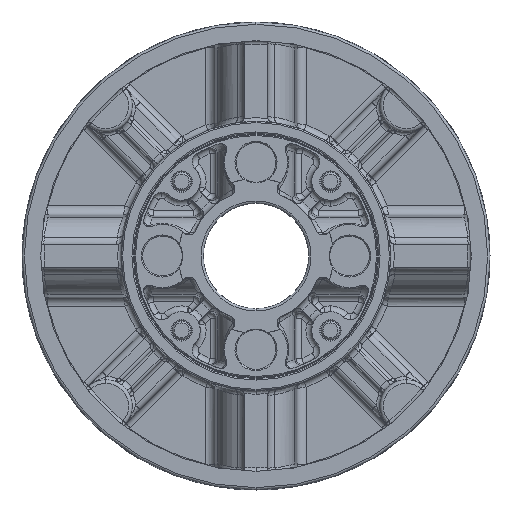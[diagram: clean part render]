
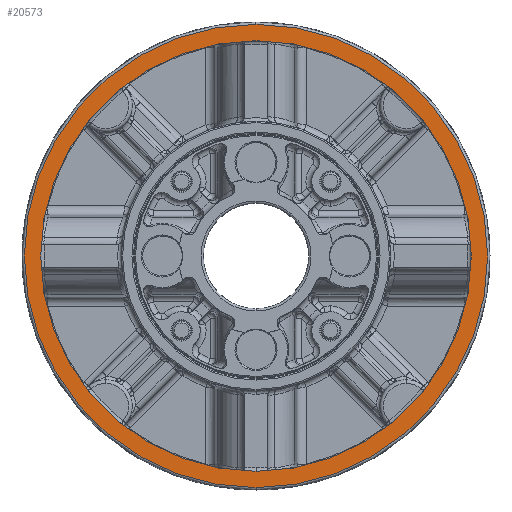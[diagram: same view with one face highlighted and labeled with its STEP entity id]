
A CAD part, left-side view. The second image highlights one B-rep face of the part: STEP entity #20573.
In plain terms, the highlighted planar face has unit normal (-1, 0, 0).
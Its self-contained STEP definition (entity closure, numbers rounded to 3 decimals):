
#924 = EDGE_CURVE ( 'NONE', #15678, #44358, #6846, .T. ) ;
#1213 = CARTESIAN_POINT ( 'NONE',  ( -100., 198., 0. ) ) ;
#4038 = CARTESIAN_POINT ( 'NONE',  ( -100., 0., 0. ) ) ;
#6023 = FACE_OUTER_BOUND ( 'NONE', #53920, .T. ) ;
#6475 = CARTESIAN_POINT ( 'NONE',  ( -100., 0., 0. ) ) ;
#6580 = DIRECTION ( 'NONE',  ( 1., 0., 0. ) ) ;
#6846 = CIRCLE ( 'NONE', #65670, 184. ) ;
#9477 = CARTESIAN_POINT ( 'NONE',  ( -100., 0., 198. ) ) ;
#10810 = DIRECTION ( 'NONE',  ( 0., 0., 1. ) ) ;
#11257 = AXIS2_PLACEMENT_3D ( 'NONE', #4038, #61016, #35822 ) ;
#11604 = ORIENTED_EDGE ( 'NONE', *, *, #57545, .F. ) ;
#15511 = AXIS2_PLACEMENT_3D ( 'NONE', #32570, #6580, #27428 ) ;
#15678 = VERTEX_POINT ( 'NONE', #35403 ) ;
#17598 = EDGE_LOOP ( 'NONE', ( #36460, #32064 ) ) ;
#17777 = CIRCLE ( 'NONE', #11257, 184. ) ;
#19361 = CARTESIAN_POINT ( 'NONE',  ( -100., 0., 0. ) ) ;
#20573 = ADVANCED_FACE ( 'NONE', ( #42537, #6023 ), #47975, .T. ) ;
#22058 = DIRECTION ( 'NONE',  ( 0., 0., -1. ) ) ;
#25737 = VERTEX_POINT ( 'NONE', #9477 ) ;
#26526 = DIRECTION ( 'NONE',  ( -1., 0., 0. ) ) ;
#27324 = DIRECTION ( 'NONE',  ( 1., 0., 0. ) ) ;
#27428 = DIRECTION ( 'NONE',  ( 0., 0., -1. ) ) ;
#30945 = CARTESIAN_POINT ( 'NONE',  ( -100., 0., -198. ) ) ;
#32064 = ORIENTED_EDGE ( 'NONE', *, *, #924, .T. ) ;
#32570 = CARTESIAN_POINT ( 'NONE',  ( -100., 0., 0. ) ) ;
#32832 = ORIENTED_EDGE ( 'NONE', *, *, #50570, .F. ) ;
#33133 = AXIS2_PLACEMENT_3D ( 'NONE', #1213, #26526, #10810 ) ;
#35403 = CARTESIAN_POINT ( 'NONE',  ( -100., 0., 184. ) ) ;
#35822 = DIRECTION ( 'NONE',  ( 0., 0., -1. ) ) ;
#36460 = ORIENTED_EDGE ( 'NONE', *, *, #58420, .T. ) ;
#38342 = CIRCLE ( 'NONE', #15511, 198. ) ;
#42537 = FACE_BOUND ( 'NONE', #17598, .T. ) ;
#44358 = VERTEX_POINT ( 'NONE', #64267 ) ;
#45965 = DIRECTION ( 'NONE',  ( 1., 0., 0. ) ) ;
#47975 = PLANE ( 'NONE',  #33133 ) ;
#50570 = EDGE_CURVE ( 'NONE', #25737, #53758, #38342, .T. ) ;
#50810 = DIRECTION ( 'NONE',  ( 0., 0., -1. ) ) ;
#53758 = VERTEX_POINT ( 'NONE', #30945 ) ;
#53920 = EDGE_LOOP ( 'NONE', ( #11604, #32832 ) ) ;
#55221 = AXIS2_PLACEMENT_3D ( 'NONE', #6475, #27324, #50810 ) ;
#57423 = CIRCLE ( 'NONE', #55221, 198. ) ;
#57545 = EDGE_CURVE ( 'NONE', #53758, #25737, #57423, .T. ) ;
#58420 = EDGE_CURVE ( 'NONE', #44358, #15678, #17777, .T. ) ;
#61016 = DIRECTION ( 'NONE',  ( 1., 0., 0. ) ) ;
#64267 = CARTESIAN_POINT ( 'NONE',  ( -100., 0., -184. ) ) ;
#65670 = AXIS2_PLACEMENT_3D ( 'NONE', #19361, #45965, #22058 ) ;
